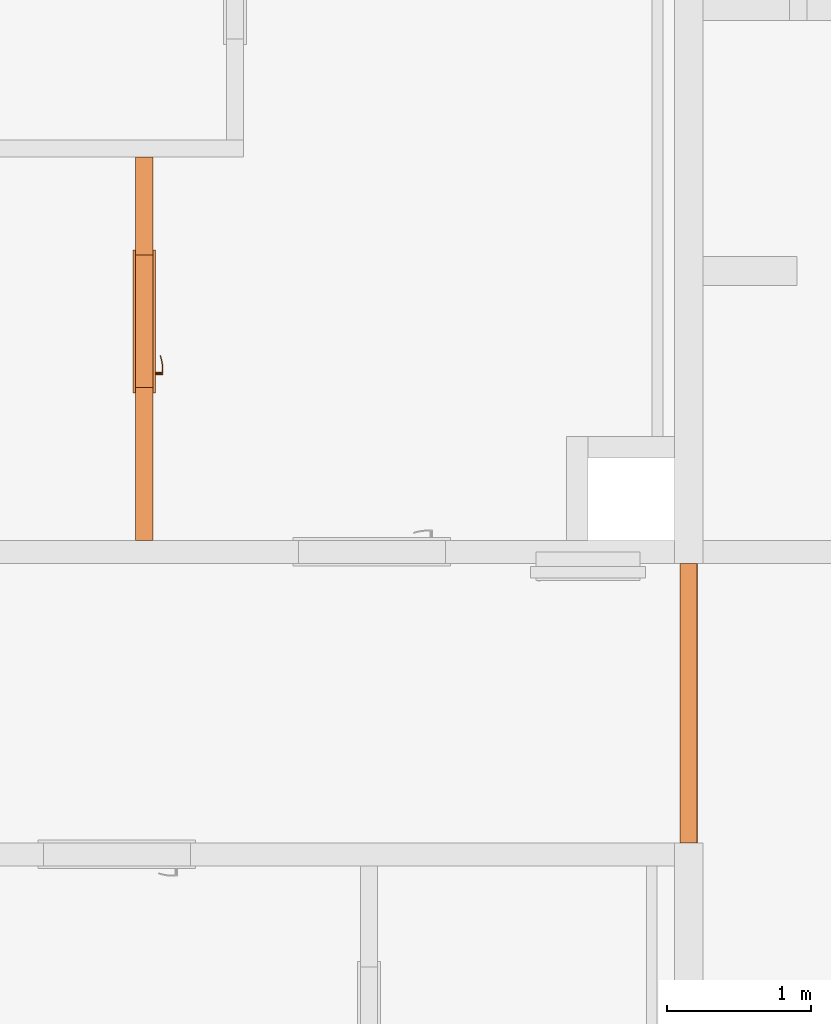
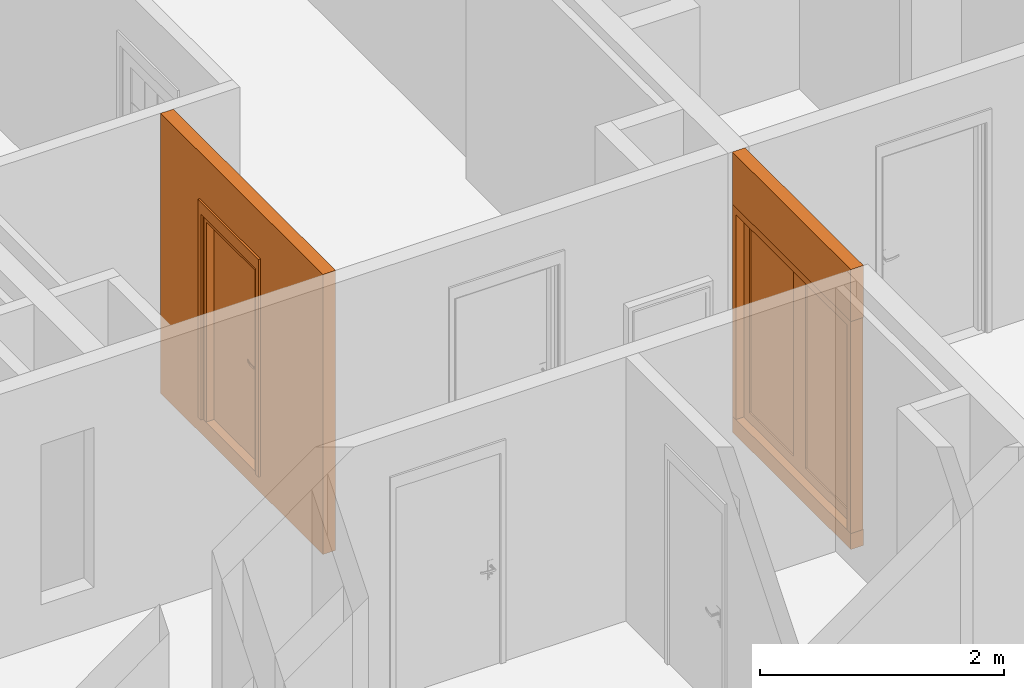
# One storey, part 25 of 67: 4 proxies, 2 openings.
"""IFC2X3 building model written with IfcOpenShell, lengths in millimetres."""

from ifc_helpers import new_model, entity, si_unit, converted_unit, derived_unit, money_unit, direction, frame, origin_with_axes, origin_2d_with_axis, place, context, subcontext, project, spatial, rectangle, extrude, open_shell, faceted_brep, surface_model, source, transform, mapped, material, type_object, element, fill, save


model = new_model("IFC2X3")

# Units and contexts
model_context = context("Model", 3, precision=0.01, world=origin_with_axes(), true_north=direction((0.34421633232, 0.938890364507)))
body_context = subcontext(model_context, "Body", "Model", "MODEL_VIEW")
ifc_project = project(units=[si_unit("LENGTHUNIT", "METRE", prefix="MILLI"), si_unit("AREAUNIT", "SQUARE_METRE"), si_unit("VOLUMEUNIT", "CUBIC_METRE"), converted_unit("PLANEANGLEUNIT", "DEGREE", entity("IfcPlaneAngleMeasure", 0.0174532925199), si_unit("PLANEANGLEUNIT", "RADIAN"), dimensions=[0, 0, 0, 0, 0, 0, 0]), si_unit("SOLIDANGLEUNIT", "STERADIAN"), money_unit("USD"), converted_unit("TIMEUNIT", "Year", entity("IfcTimeMeasure", 31556926.0), si_unit("TIMEUNIT", "SECOND"), dimensions=[0, 0, 1, 0, 0, 0, 0]), si_unit("MASSUNIT", "GRAM", prefix="KILO"), si_unit("THERMODYNAMICTEMPERATUREUNIT", "DEGREE_CELSIUS"), si_unit("LUMINOUSINTENSITYUNIT", "LUMEN"), si_unit("ENERGYUNIT", "JOULE", prefix="MEGA"), derived_unit("THERMALCONDUCTANCEUNIT", [(si_unit("POWERUNIT", "WATT"), 1), (si_unit("LENGTHUNIT", "METRE"), -1), (si_unit("THERMODYNAMICTEMPERATUREUNIT", "KELVIN"), -1)]), derived_unit("SPECIFICHEATCAPACITYUNIT", [(si_unit("ENERGYUNIT", "JOULE"), 1), (si_unit("MASSUNIT", "GRAM", prefix="KILO"), -1), (si_unit("THERMODYNAMICTEMPERATUREUNIT", "KELVIN"), -1)]), derived_unit("MASSDENSITYUNIT", [(si_unit("MASSUNIT", "GRAM", prefix="KILO"), 1), (si_unit("VOLUMEUNIT", "CUBIC_METRE"), -1)])], contexts=[model_context])

# Site, building, storey
site_placement = place(None, origin_with_axes())
site = spatial("IfcSite", under=ifc_project, at=site_placement, Name="USTRONIE MORSKIE", CompositionType="ELEMENT")
building_placement = place(site_placement, origin_with_axes())
building = spatial("IfcBuilding", under=site, at=building_placement, Name="Budynek", CompositionType="ELEMENT")
storey_placement = place(building_placement, frame((0.0, 0.0, 4000.0), z_axis=(0.0, 0.0, 1.0), x_axis=(1.0, 0.0, 0.0)))
storey = spatial("IfcBuildingStorey", under=building, at=storey_placement, Name="PIĘTRO 1", CompositionType="ELEMENT", Elevation=4000.0)

# Proxies, opening
ifc_material = material(Name="Bloczki silikatowe")
building_element_proxy_type_1 = type_object("IfcBuildingElementProxyType", Name="Bloczki silikatowe 120", PredefinedType="NOTDEFINED")
proxy_1_placement = place(storey_placement, frame((379317.920919, 734751.199036, -160.0), z_axis=(0.0, 0.0, 1.0), x_axis=(0.0, 1.0, 0.0)))
proxy_1 = element("IfcBuildingElementProxy", 1, at=proxy_1_placement, inside=storey, type_object=building_element_proxy_type_1, material=ifc_material, Name="SW-04", context=body_context, shape_type="Brep", body=[
    faceted_brep([(80.0038033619, -60.0, 0.0), (2020.0, -60.0, 0.0), (2020.0, -60.0, 2800.0), (80.0038033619, -60.0, 2800.0), (80.0037661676, 60.0, 0.0), (2020.0, 60.0, 0.0), (2020.0, 60.0, 2800.0), (80.0037661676, 60.0, 2800.0)], [[[0, 1, 2, 3]], [[4, 5, 1, 0]], [[5, 6, 2, 1]], [[3, 2, 6, 7]], [[4, 0, 3, 7]], [[7, 6, 5, 4]]]),
])
opening_1_placement = place(proxy_1_placement, frame((1050.00188308, 0.0, 160.0), z_axis=(0.0, 0.0, 1.0), x_axis=(1.0, 0.0, 0.0)))
opening_1 = element("IfcOpeningElement", 2, at=opening_1_placement, cuts=proxy_1, Name="Dw.6s", context=body_context, shape_type="SweptSolid", body=[
    extrude(rectangle(XDim=1940.0, YDim=2120.0, at=origin_2d_with_axis()), frame((0.0, -120.0, 1060.0), z_axis=(0.0, -1.0, 0.0), x_axis=(1.0, 0.0, 0.0)), (0.0, 0.0, -1.0), 360.0),
])
building_element_proxy_type_2 = type_object("IfcBuildingElementProxyType", Name="Drzwi podwójne 23", PredefinedType="NOTDEFINED")
shared_shape_1 = source(origin_with_axes(), body_context, "Body", "SurfaceModel", [
    faceted_brep([(910.0, -40.0, 0.0), (910.0, -115.0, 0.0), (910.0, -115.0, 2050.0), (910.0, -40.0, 2050.0), (922.0, -40.0, 0.0), (922.0, 0.0, 0.0), (970.0, 0.0, 0.0), (970.0, -115.0, 0.0), (970.0, -115.0, 2050.0), (922.0, -40.0, 2050.0), (970.0, 0.0, 2050.0), (922.0, 0.0, 2050.0)], [[[0, 1, 2, 3]], [[4, 5, 6, 7, 1, 0]], [[1, 7, 8, 2]], [[9, 3, 2, 8, 10, 11]], [[9, 4, 0, 3]], [[11, 5, 4, 9]], [[11, 10, 6, 5]], [[6, 10, 8, 7]]]),
    faceted_brep([(-922.0, -40.0, 2050.0), (-922.0, 0.0, 2050.0), (-970.0, 0.0, 2050.0), (-970.0, -115.0, 2050.0), (-910.0, -115.0, 2050.0), (-910.0, -40.0, 2050.0), (-922.0, -40.0, 0.0), (-922.0, 0.0, 0.0), (-970.0, 0.0, 0.0), (-970.0, -115.0, 0.0), (-910.0, -115.0, 0.0), (-910.0, -40.0, 0.0)], [[[0, 1, 2, 3, 4, 5]], [[0, 6, 7, 1]], [[7, 8, 2, 1]], [[2, 8, 9, 3]], [[3, 9, 10, 4]], [[5, 4, 10, 11]], [[5, 11, 6, 0]], [[6, 11, 10, 9, 8, 7]]]),
    faceted_brep([(922.0, 0.0, 2062.0), (-922.0, 0.0, 2062.0), (-922.0, 0.0, 2050.0), (-970.0, 0.0, 2050.0), (-970.0, 0.0, 2120.0), (970.0, 0.0, 2120.0), (970.0, 0.0, 2050.0), (922.0, 0.0, 2050.0), (922.0, -40.0, 2062.0), (-922.0, -40.0, 2062.0), (-922.0, -40.0, 2050.0), (-910.0, -40.0, 2050.0), (-910.0, -115.0, 2050.0), (-970.0, -115.0, 2050.0), (-970.0, -115.0, 2120.0), (970.0, -115.0, 2120.0), (970.0, -115.0, 2050.0), (922.0, -40.0, 2050.0), (910.0, -115.0, 2050.0), (910.0, -40.0, 2050.0)], [[[0, 1, 2, 3, 4, 5, 6, 7]], [[0, 8, 9, 1]], [[1, 9, 10, 2]], [[10, 11, 12, 13, 3, 2]], [[4, 3, 13, 14]], [[5, 4, 14, 15]], [[6, 5, 15, 16]], [[17, 7, 6, 16, 18, 19]], [[7, 17, 8, 0]], [[10, 9, 8, 17, 19, 11]], [[19, 18, 12, 11]], [[12, 18, 16, 15, 14, 13]]]),
    faceted_brep([(-922.0, 0.0, 100.0), (-822.0, 0.0, 100.0), (-822.0, -40.0, 100.0), (-922.0, -40.0, 100.0), (-922.0, 0.0, 1962.0), (-822.0, 0.0, 1962.0), (-822.0, -40.0, 1962.0), (-922.0, -40.0, 1962.0)], [[[0, 1, 2, 3]], [[0, 4, 5, 1]], [[1, 5, 6, 2]], [[3, 2, 6, 7]], [[4, 0, 3, 7]], [[5, 4, 7, 6]]]),
    faceted_brep([(0.0, 0.0, 100.0), (0.0, 0.0, 1962.0), (0.0, -40.0, 1962.0), (0.0, -40.0, 100.0), (-100.0, 0.0, 100.0), (-100.0, 0.0, 1962.0), (-100.0, -40.0, 1962.0), (-100.0, -40.0, 100.0)], [[[0, 1, 2, 3]], [[0, 4, 5, 1]], [[1, 5, 6, 2]], [[3, 2, 6, 7]], [[4, 0, 3, 7]], [[5, 4, 7, 6]]]),
    faceted_brep([(-922.0, 0.0, 0.0), (0.0, 0.0, 0.0), (0.0, -40.0, 0.0), (-922.0, -40.0, 0.0), (-922.0, 0.0, 100.0), (-822.0, 0.0, 100.0), (-100.0, 0.0, 100.0), (0.0, 0.0, 100.0), (0.0, -40.0, 100.0), (-100.0, -40.0, 100.0), (-822.0, -40.0, 100.0), (-922.0, -40.0, 100.0)], [[[0, 1, 2, 3]], [[0, 4, 5, 6, 7, 1]], [[1, 7, 8, 2]], [[3, 2, 8, 9, 10, 11]], [[4, 0, 3, 11]], [[5, 4, 11, 10]], [[6, 5, 10, 9]], [[7, 6, 9, 8]]]),
    faceted_brep([(-922.0, 0.0, 2062.0), (-922.0, 0.0, 1962.0), (-922.0, -40.0, 1962.0), (-922.0, -40.0, 2062.0), (0.0, 0.0, 2062.0), (0.0, 0.0, 1962.0), (-100.0, 0.0, 1962.0), (-822.0, 0.0, 1962.0), (-822.0, -40.0, 1962.0), (-100.0, -40.0, 1962.0), (0.0, -40.0, 1962.0), (0.0, -40.0, 2062.0)], [[[0, 1, 2, 3]], [[0, 4, 5, 6, 7, 1]], [[1, 7, 8, 2]], [[3, 2, 8, 9, 10, 11]], [[4, 0, 3, 11]], [[5, 4, 11, 10]], [[6, 5, 10, 9]], [[7, 6, 9, 8]]]),
    surface_model("IfcShellBasedSurfaceModel", [(-822.0, -14.0, 100.0), (-822.0, -14.0, 1962.0), (-100.0, -14.0, 1962.0), (-100.0, -14.0, 100.0)], [open_shell([[[0, 1, 2, 3]]])]),
    surface_model("IfcShellBasedSurfaceModel", [(-822.0, -26.0, 100.0), (-100.0, -26.0, 100.0), (-100.0, -26.0, 1962.0), (-822.0, -26.0, 1962.0)], [open_shell([[[0, 1, 2, 3]]])]),
    faceted_brep([(922.0, 0.0, 100.0), (922.0, -40.0, 100.0), (822.0, -40.0, 100.0), (822.0, 0.0, 100.0), (922.0, 0.0, 1962.0), (922.0, -40.0, 1962.0), (822.0, -40.0, 1962.0), (822.0, 0.0, 1962.0)], [[[0, 1, 2, 3]], [[4, 5, 1, 0]], [[1, 5, 6, 2]], [[3, 2, 6, 7]], [[0, 3, 7, 4]], [[7, 6, 5, 4]]]),
    faceted_brep([(0.0, 0.0, 100.0), (0.0, -40.0, 100.0), (0.0, -40.0, 1962.0), (0.0, 0.0, 1962.0), (100.0, 0.0, 100.0), (100.0, -40.0, 100.0), (100.0, -40.0, 1962.0), (100.0, 0.0, 1962.0)], [[[0, 1, 2, 3]], [[4, 5, 1, 0]], [[1, 5, 6, 2]], [[3, 2, 6, 7]], [[0, 3, 7, 4]], [[7, 6, 5, 4]]]),
    faceted_brep([(922.0, 0.0, 0.0), (922.0, -40.0, 0.0), (0.0, -40.0, 0.0), (0.0, 0.0, 0.0), (922.0, 0.0, 100.0), (922.0, -40.0, 100.0), (822.0, -40.0, 100.0), (100.0, -40.0, 100.0), (0.0, -40.0, 100.0), (0.0, 0.0, 100.0), (100.0, 0.0, 100.0), (822.0, 0.0, 100.0)], [[[0, 1, 2, 3]], [[4, 5, 1, 0]], [[1, 5, 6, 7, 8, 2]], [[3, 2, 8, 9]], [[0, 3, 9, 10, 11, 4]], [[11, 6, 5, 4]], [[10, 7, 6, 11]], [[9, 8, 7, 10]]]),
    faceted_brep([(922.0, 0.0, 2062.0), (922.0, -40.0, 2062.0), (922.0, -40.0, 1962.0), (922.0, 0.0, 1962.0), (0.0, 0.0, 2062.0), (0.0, -40.0, 2062.0), (0.0, -40.0, 1962.0), (100.0, -40.0, 1962.0), (822.0, -40.0, 1962.0), (822.0, 0.0, 1962.0), (100.0, 0.0, 1962.0), (0.0, 0.0, 1962.0)], [[[0, 1, 2, 3]], [[4, 5, 1, 0]], [[1, 5, 6, 7, 8, 2]], [[3, 2, 8, 9]], [[0, 3, 9, 10, 11, 4]], [[11, 6, 5, 4]], [[10, 7, 6, 11]], [[9, 8, 7, 10]]]),
    surface_model("IfcShellBasedSurfaceModel", [(822.0, -14.0, 100.0), (100.0, -14.0, 100.0), (100.0, -14.0, 1962.0), (822.0, -14.0, 1962.0)], [open_shell([[[0, 1, 2, 3]]])]),
    surface_model("IfcShellBasedSurfaceModel", [(822.0, -26.0, 100.0), (822.0, -26.0, 1962.0), (100.0, -26.0, 1962.0), (100.0, -26.0, 100.0)], [open_shell([[[0, 1, 2, 3]]])]),
])
proxy_2_placement = place(opening_1_placement, frame((910.0, 0.0, 0.0), z_axis=(0.0, 0.0, 1.0), x_axis=(-1.0, 0.0, 0.0)))
proxy_2 = element("IfcBuildingElementProxy", 3, at=proxy_2_placement, inside=storey, type_object=building_element_proxy_type_2, Name="Dw.6s", context=body_context, shape_type="MappedRepresentation", body=[
    mapped(shared_shape_1, transform((910.0, 55.0, 0.0))),
])
fill(opening_1, proxy_2)

proxy_3_placement = place(storey_placement, frame((375537.920919, 739651.199937, -160.0), z_axis=(0.0, 0.0, 1.0), x_axis=(0.0, -1.0, 0.0)))
proxy_3 = element("IfcBuildingElementProxy", 4, at=proxy_3_placement, inside=storey, type_object=building_element_proxy_type_1, material=ifc_material, Name="SW-04", context=body_context, shape_type="Brep", body=[
    faceted_brep([(2720.00090117, 60.0, 0.0), (2720.00090117, -60.0, 0.0), (59.9999999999, -60.0, 0.0), (59.9999999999, 60.0, 0.0), (2720.00090117, 60.0, 2800.0), (2720.00090117, -60.0, 2800.0), (59.9999999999, -60.0, 2800.0), (59.9999999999, 60.0, 2800.0)], [[[0, 1, 2, 3]], [[1, 0, 4, 5]], [[1, 5, 6, 2]], [[7, 3, 2, 6]], [[4, 0, 3, 7]], [[5, 4, 7, 6]]]),
])
opening_2_placement = place(proxy_3_placement, frame((1200.00090117, 0.0, 160.0), z_axis=(0.0, 0.0, 1.0), x_axis=(1.0, 0.0, 0.0)))
opening_2 = element("IfcOpeningElement", 5, at=opening_2_placement, cuts=proxy_3, Name="Dw.4", context=body_context, shape_type="SweptSolid", body=[
    extrude(rectangle(XDim=920.0, YDim=2070.0, at=origin_2d_with_axis()), frame((0.0, -120.0, 1035.0), z_axis=(0.0, -1.0, 0.0), x_axis=(-1.0, 0.0, 0.0)), (0.0, 0.0, -1.0), 360.0),
    extrude(rectangle(XDim=994.0, YDim=2177.0, at=origin_2d_with_axis()), frame((0.0, -60.0, 1088.5), z_axis=(0.0, -1.0, 0.0), x_axis=(-1.0, 0.0, 0.0)), (0.0, 0.0, 1.0), 120.0),
    extrude(rectangle(XDim=994.0, YDim=2177.0, at=origin_2d_with_axis()), frame((0.0, 60.0, 1088.5), z_axis=(0.0, 1.0, 0.0), x_axis=(-1.0, 0.0, 0.0)), (0.0, 0.0, 1.0), 120.0),
])
building_element_proxy_type_3 = type_object("IfcBuildingElementProxyType", Name="Drzwi 23", PredefinedType="NOTDEFINED")
shared_shape_2 = source(origin_with_axes(), body_context, "Body", "SurfaceModel", [
    faceted_brep([(460.0, -115.0, 0.0), (460.0, -120.0, 0.0), (435.0, -120.0, 0.0), (435.0, -115.0, 0.0), (460.0, -115.0, 2070.0), (460.0, -120.0, 2070.0), (435.0, -120.0, 2045.0), (435.0, -115.0, 2045.0)], [[[0, 1, 2, 3]], [[4, 5, 1, 0]], [[1, 5, 6, 2]], [[3, 2, 6, 7]], [[0, 3, 7, 4]], [[7, 6, 5, 4]]]),
    faceted_brep([(-460.0, -115.0, 2070.0), (-460.0, -120.0, 2070.0), (-435.0, -120.0, 2045.0), (-435.0, -115.0, 2045.0), (-460.0, -115.0, 0.0), (-460.0, -120.0, 0.0), (-435.0, -120.0, 0.0), (-435.0, -115.0, 0.0)], [[[0, 1, 2, 3]], [[4, 5, 1, 0]], [[1, 5, 6, 2]], [[3, 2, 6, 7]], [[0, 3, 7, 4]], [[7, 6, 5, 4]]]),
    faceted_brep([(435.0, -115.0, 2045.0), (435.0, -120.0, 2045.0), (-435.0, -120.0, 2045.0), (-435.0, -115.0, 2045.0), (460.0, -115.0, 2070.0), (460.0, -120.0, 2070.0), (-460.0, -120.0, 2070.0), (-460.0, -115.0, 2070.0)], [[[0, 1, 2, 3]], [[4, 5, 1, 0]], [[1, 5, 6, 2]], [[3, 2, 6, 7]], [[0, 3, 7, 4]], [[7, 6, 5, 4]]]),
    faceted_brep([(497.0, -139.0, 0.0), (447.0, -139.0, 0.0), (447.0, -120.0, 0.0), (497.0, -120.0, 0.0), (497.0, -139.0, 2177.0), (447.0, -139.0, 2057.0), (447.0, -120.0, 2057.0), (497.0, -120.0, 2177.0)], [[[0, 1, 2, 3]], [[0, 4, 5, 1]], [[1, 5, 6, 2]], [[3, 2, 6, 7]], [[4, 0, 3, 7]], [[5, 4, 7, 6]]]),
    faceted_brep([(-497.0, -139.0, 2177.0), (-447.0, -139.0, 2057.0), (-447.0, -120.0, 2057.0), (-497.0, -120.0, 2177.0), (-497.0, -139.0, 0.0), (-447.0, -139.0, 0.0), (-447.0, -120.0, 0.0), (-497.0, -120.0, 0.0)], [[[0, 1, 2, 3]], [[0, 4, 5, 1]], [[1, 5, 6, 2]], [[3, 2, 6, 7]], [[4, 0, 3, 7]], [[5, 4, 7, 6]]]),
    faceted_brep([(497.0, -139.0, 2177.0), (447.0, -139.0, 2057.0), (447.0, -120.0, 2057.0), (497.0, -120.0, 2177.0), (-497.0, -139.0, 2177.0), (-447.0, -139.0, 2057.0), (-447.0, -120.0, 2057.0), (-497.0, -120.0, 2177.0)], [[[0, 1, 2, 3]], [[0, 4, 5, 1]], [[1, 5, 6, 2]], [[3, 2, 6, 7]], [[4, 0, 3, 7]], [[5, 4, 7, 6]]]),
    faceted_brep([(497.0, 19.0, 0.0), (497.0, 0.0, 0.0), (447.0, 0.0, 0.0), (447.0, 19.0, 0.0), (497.0, 19.0, 2177.0), (497.0, 0.0, 2177.0), (447.0, 0.0, 2057.0), (447.0, 19.0, 2057.0)], [[[0, 1, 2, 3]], [[4, 5, 1, 0]], [[1, 5, 6, 2]], [[3, 2, 6, 7]], [[0, 3, 7, 4]], [[7, 6, 5, 4]]]),
    faceted_brep([(-497.0, 19.0, 2177.0), (-497.0, 0.0, 2177.0), (-447.0, 0.0, 2057.0), (-447.0, 19.0, 2057.0), (-497.0, 19.0, 0.0), (-497.0, 0.0, 0.0), (-447.0, 0.0, 0.0), (-447.0, 19.0, 0.0)], [[[0, 1, 2, 3]], [[4, 5, 1, 0]], [[1, 5, 6, 2]], [[3, 2, 6, 7]], [[0, 3, 7, 4]], [[7, 6, 5, 4]]]),
    faceted_brep([(497.0, 19.0, 2177.0), (497.0, 0.0, 2177.0), (447.0, 0.0, 2057.0), (447.0, 19.0, 2057.0), (-497.0, 19.0, 2177.0), (-497.0, 0.0, 2177.0), (-447.0, 0.0, 2057.0), (-447.0, 19.0, 2057.0)], [[[0, 1, 2, 3]], [[4, 5, 1, 0]], [[1, 5, 6, 2]], [[3, 2, 6, 7]], [[0, 3, 7, 4]], [[7, 6, 5, 4]]]),
    faceted_brep([(400.0, -40.0, 0.0), (400.0, -115.0, 0.0), (400.0, -115.0, 2000.0), (400.0, -40.0, 2000.0), (412.0, -40.0, 0.0), (412.0, 0.0, 0.0), (460.0, 0.0, 0.0), (460.0, -115.0, 0.0), (460.0, -115.0, 2000.0), (412.0, -40.0, 2000.0), (460.0, 0.0, 2000.0), (412.0, 0.0, 2000.0)], [[[0, 1, 2, 3]], [[4, 5, 6, 7, 1, 0]], [[1, 7, 8, 2]], [[9, 3, 2, 8, 10, 11]], [[9, 4, 0, 3]], [[11, 5, 4, 9]], [[11, 10, 6, 5]], [[6, 10, 8, 7]]]),
    faceted_brep([(-412.0, -40.0, 2000.0), (-412.0, 0.0, 2000.0), (-460.0, 0.0, 2000.0), (-460.0, -115.0, 2000.0), (-400.0, -115.0, 2000.0), (-400.0, -40.0, 2000.0), (-412.0, -40.0, 0.0), (-412.0, 0.0, 0.0), (-460.0, 0.0, 0.0), (-460.0, -115.0, 0.0), (-400.0, -115.0, 0.0), (-400.0, -40.0, 0.0)], [[[0, 1, 2, 3, 4, 5]], [[0, 6, 7, 1]], [[7, 8, 2, 1]], [[2, 8, 9, 3]], [[3, 9, 10, 4]], [[5, 4, 10, 11]], [[5, 11, 6, 0]], [[6, 11, 10, 9, 8, 7]]]),
    faceted_brep([(412.0, 0.0, 2012.0), (-412.0, 0.0, 2012.0), (-412.0, 0.0, 2000.0), (-460.0, 0.0, 2000.0), (-460.0, 0.0, 2070.0), (460.0, 0.0, 2070.0), (460.0, 0.0, 2000.0), (412.0, 0.0, 2000.0), (412.0, -40.0, 2012.0), (-412.0, -40.0, 2012.0), (-412.0, -40.0, 2000.0), (-400.0, -40.0, 2000.0), (-400.0, -115.0, 2000.0), (-460.0, -115.0, 2000.0), (-460.0, -115.0, 2070.0), (460.0, -115.0, 2070.0), (460.0, -115.0, 2000.0), (412.0, -40.0, 2000.0), (400.0, -115.0, 2000.0), (400.0, -40.0, 2000.0)], [[[0, 1, 2, 3, 4, 5, 6, 7]], [[0, 8, 9, 1]], [[1, 9, 10, 2]], [[10, 11, 12, 13, 3, 2]], [[4, 3, 13, 14]], [[5, 4, 14, 15]], [[6, 5, 15, 16]], [[17, 7, 6, 16, 18, 19]], [[7, 17, 8, 0]], [[10, 9, 8, 17, 19, 11]], [[19, 18, 12, 11]], [[12, 18, 16, 15, 14, 13]]]),
    faceted_brep([(390.5, -40.0, 1060.0), (333.5, -40.0, 1060.0), (333.5, -43.0, 1060.0), (390.5, -43.0, 1060.0), (390.5, -40.0, 870.0), (333.5, -40.0, 870.0), (333.5, -43.0, 870.0), (390.5, -43.0, 870.0)], [[[0, 1, 2, 3]], [[0, 4, 5, 1]], [[1, 5, 6, 2]], [[3, 2, 6, 7]], [[4, 0, 3, 7]], [[5, 4, 7, 6]]]),
    faceted_brep([(362.0, -104.0, 990.0), (367.0, -104.0, 991.339745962), (367.0, -111.0, 991.339745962), (362.0, -111.0, 990.0), (337.0, -104.0, 990.0), (337.0, -104.0, 1010.0), (362.0, -104.0, 1010.0), (367.0, -104.0, 1008.66025404), (370.660254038, -104.0, 1005.0), (372.0, -104.0, 1000.0), (370.660254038, -104.0, 995.0), (370.660254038, -111.0, 995.0), (372.0, -111.0, 1000.0), (370.660254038, -111.0, 1005.0), (367.0, -111.0, 1008.66025404), (362.0, -111.0, 1010.0), (337.0, -111.0, 1010.0), (337.0, -111.0, 990.0)], [[[0, 1, 2, 3]], [[0, 4, 5, 6, 7, 8, 9, 10, 1]], [[1, 10, 11, 2]], [[3, 2, 11, 12, 13, 14, 15, 16, 17]], [[4, 0, 3, 17]], [[5, 4, 17, 16]], [[6, 5, 16, 15]], [[7, 6, 15, 14]], [[8, 7, 14, 13]], [[9, 8, 13, 12]], [[10, 9, 12, 11]]]),
    surface_model("IfcShellBasedSurfaceModel", [(337.0, -104.0, 1010.0), (323.901717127, -104.0, 1009.60730092), (323.596090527, -111.0, 1009.60730092), (337.0, -104.0, 990.0), (323.901717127, -104.0, 990.392699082), (296.890283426, -108.663544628, 1008.82190275), (337.0, -111.0, 1010.0), (337.0, -111.0, 990.0), (297.804837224, -101.716818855, 991.178097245), (297.804837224, -101.716818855, 1008.82190275), (296.890283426, -108.663544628, 991.178097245), (323.596090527, -111.0, 990.392699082), (272.006256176, -97.1678329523, 991.963495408), (272.006256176, -97.1678329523, 1008.03650459), (270.489735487, -104.008415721, 1008.03650459), (270.489735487, -104.008415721, 991.963495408), (246.702316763, -90.3876628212, 992.748893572), (246.702316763, -90.3876628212, 1007.25110643), (244.59537082, -97.0700416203, 1007.25110643), (244.59537082, -97.0700416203, 992.748893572), (238.829442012, -87.5221707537, 993.0), (238.829442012, -87.5221707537, 1007.0), (236.538795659, -94.1376880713, 1007.0), (236.538795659, -94.1376880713, 993.0)], [open_shell([[[0, 1, 2]], [[0, 3, 4, 1]], [[1, 5, 2]], [[0, 2, 6]], [[4, 3, 7]], [[1, 4, 8, 9]], [[1, 9, 5]], [[2, 5, 10, 11]], [[6, 2, 11, 7]], [[4, 7, 11]], [[8, 4, 11]], [[9, 8, 12, 13]], [[9, 14, 5]], [[5, 14, 15, 10]], [[8, 11, 10]], [[12, 8, 10]], [[13, 12, 16, 17]], [[9, 13, 14]], [[14, 18, 19, 15]], [[12, 10, 15]], [[16, 12, 15]], [[17, 16, 20, 21]], [[13, 17, 18]], [[13, 18, 14]], [[18, 22, 23, 19]], [[16, 15, 19]], [[20, 16, 19]], [[21, 20, 23, 22]], [[17, 21, 22]], [[17, 22, 18]], [[20, 19, 23]]])]),
    faceted_brep([(351.607695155, -53.0, 994.0), (350.0, -53.0, 1000.0), (349.0, -43.0, 1000.0), (350.741669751, -43.0, 993.5), (356.0, -53.0, 989.607695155), (362.0, -53.0, 988.0), (368.0, -53.0, 989.607695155), (372.392304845, -53.0, 994.0), (374.0, -53.0, 1000.0), (372.392304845, -53.0, 1006.0), (368.0, -53.0, 1010.39230485), (362.0, -53.0, 1012.0), (356.0, -53.0, 1010.39230485), (351.607695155, -53.0, 1006.0), (350.741669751, -43.0, 1006.5), (355.5, -43.0, 1011.25833025), (362.0, -43.0, 1013.0), (368.5, -43.0, 1011.25833025), (373.258330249, -43.0, 1006.5), (375.0, -43.0, 1000.0), (373.258330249, -43.0, 993.5), (368.5, -43.0, 988.741669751), (362.0, -43.0, 987.0), (355.5, -43.0, 988.741669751)], [[[0, 1, 2, 3]], [[1, 0, 4, 5, 6, 7, 8, 9, 10, 11, 12, 13]], [[1, 13, 14, 2]], [[2, 14, 15, 16, 17, 18, 19, 20, 21, 22, 23, 3]], [[4, 0, 3, 23]], [[5, 4, 23, 22]], [[6, 5, 22, 21]], [[7, 6, 21, 20]], [[8, 7, 20, 19]], [[9, 8, 19, 18]], [[10, 9, 18, 17]], [[11, 10, 17, 16]], [[12, 11, 16, 15]], [[13, 12, 15, 14]]]),
    faceted_brep([(344.679491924, -47.0, 895.0), (342.0, -47.0, 905.0), (340.0, -43.0, 905.0), (342.947441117, -43.0, 894.0), (352.0, -47.0, 887.679491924), (362.0, -47.0, 885.0), (372.0, -47.0, 887.679491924), (379.320508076, -47.0, 895.0), (382.0, -47.0, 905.0), (379.320508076, -47.0, 915.0), (372.0, -47.0, 922.320508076), (362.0, -47.0, 925.0), (352.0, -47.0, 922.320508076), (344.679491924, -47.0, 915.0), (342.947441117, -43.0, 916.0), (351.0, -43.0, 924.052558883), (362.0, -43.0, 927.0), (373.0, -43.0, 924.052558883), (381.052558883, -43.0, 916.0), (384.0, -43.0, 905.0), (381.052558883, -43.0, 894.0), (373.0, -43.0, 885.947441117), (362.0, -43.0, 883.0), (351.0, -43.0, 885.947441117)], [[[0, 1, 2, 3]], [[1, 0, 4, 5, 6, 7, 8, 9, 10, 11, 12, 13]], [[1, 13, 14, 2]], [[2, 14, 15, 16, 17, 18, 19, 20, 21, 22, 23, 3]], [[4, 0, 3, 23]], [[5, 4, 23, 22]], [[6, 5, 22, 21]], [[7, 6, 21, 20]], [[8, 7, 20, 19]], [[9, 8, 19, 18]], [[10, 9, 18, 17]], [[11, 10, 17, 16]], [[12, 11, 16, 15]], [[13, 12, 15, 14]]]),
    faceted_brep([(357.050252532, -49.0, 909.050252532), (355.0, -49.0, 914.0), (354.0, -47.0, 914.0), (356.343145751, -47.0, 908.343145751), (362.0, -49.0, 907.0), (366.949747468, -49.0, 909.050252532), (369.0, -49.0, 914.0), (366.949747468, -49.0, 918.949747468), (362.0, -49.0, 921.0), (357.050252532, -49.0, 918.949747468), (356.343145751, -47.0, 919.656854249), (362.0, -47.0, 922.0), (367.656854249, -47.0, 919.656854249), (370.0, -47.0, 914.0), (367.656854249, -47.0, 908.343145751), (362.0, -47.0, 906.0)], [[[0, 1, 2, 3]], [[1, 0, 4, 5, 6, 7, 8, 9]], [[1, 9, 10, 2]], [[2, 10, 11, 12, 13, 14, 15, 3]], [[4, 0, 3, 15]], [[5, 4, 15, 14]], [[6, 5, 14, 13]], [[7, 6, 13, 12]], [[8, 7, 12, 11]], [[9, 8, 11, 10]]]),
    faceted_brep([(362.0, -53.0, 1010.0), (357.0, -53.0, 1008.66025404), (357.0, -104.0, 1008.66025404), (362.0, -104.0, 1010.0), (367.0, -53.0, 1008.66025404), (370.660254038, -53.0, 1005.0), (372.0, -53.0, 1000.0), (370.660254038, -53.0, 995.0), (367.0, -53.0, 991.339745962), (362.0, -53.0, 990.0), (357.0, -53.0, 991.339745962), (353.339745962, -53.0, 995.0), (352.0, -53.0, 1000.0), (353.339745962, -53.0, 1005.0), (353.339745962, -104.0, 1005.0), (352.0, -104.0, 1000.0), (353.339745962, -104.0, 995.0), (357.0, -104.0, 991.339745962), (362.0, -104.0, 990.0), (367.0, -104.0, 991.339745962), (370.660254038, -104.0, 995.0), (372.0, -104.0, 1000.0), (370.660254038, -104.0, 1005.0), (367.0, -104.0, 1008.66025404)], [[[0, 1, 2, 3]], [[0, 4, 5, 6, 7, 8, 9, 10, 11, 12, 13, 1]], [[1, 13, 14, 2]], [[3, 2, 14, 15, 16, 17, 18, 19, 20, 21, 22, 23]], [[4, 0, 3, 23]], [[5, 4, 23, 22]], [[6, 5, 22, 21]], [[7, 6, 21, 20]], [[8, 7, 20, 19]], [[9, 8, 19, 18]], [[10, 9, 18, 17]], [[11, 10, 17, 16]], [[12, 11, 16, 15]], [[13, 12, 15, 14]]]),
    faceted_brep([(390.5, 0.0, 1060.0), (390.5, 3.0, 1060.0), (333.5, 3.0, 1060.0), (333.5, 0.0, 1060.0), (390.5, 0.0, 870.0), (390.5, 3.0, 870.0), (333.5, 3.0, 870.0), (333.5, 0.0, 870.0)], [[[0, 1, 2, 3]], [[4, 5, 1, 0]], [[1, 5, 6, 2]], [[3, 2, 6, 7]], [[0, 3, 7, 4]], [[7, 6, 5, 4]]]),
    faceted_brep([(362.0, 64.0, 990.0), (362.0, 71.0, 990.0), (367.0, 71.0, 991.339745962), (367.0, 64.0, 991.339745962), (337.0, 64.0, 990.0), (337.0, 71.0, 990.0), (337.0, 71.0, 1010.0), (362.0, 71.0, 1010.0), (367.0, 71.0, 1008.66025404), (370.660254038, 71.0, 1005.0), (372.0, 71.0, 1000.0), (370.660254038, 71.0, 995.0), (370.660254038, 64.0, 995.0), (372.0, 64.0, 1000.0), (370.660254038, 64.0, 1005.0), (367.0, 64.0, 1008.66025404), (362.0, 64.0, 1010.0), (337.0, 64.0, 1010.0)], [[[0, 1, 2, 3]], [[4, 5, 1, 0]], [[1, 5, 6, 7, 8, 9, 10, 11, 2]], [[3, 2, 11, 12]], [[0, 3, 12, 13, 14, 15, 16, 17, 4]], [[17, 6, 5, 4]], [[16, 7, 6, 17]], [[15, 8, 7, 16]], [[14, 9, 8, 15]], [[13, 10, 9, 14]], [[12, 11, 10, 13]]]),
    surface_model("IfcShellBasedSurfaceModel", [(337.0, 64.0, 1010.0), (323.596090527, 71.0, 1009.60730092), (323.901717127, 64.0, 1009.60730092), (337.0, 71.0, 1010.0), (296.890283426, 68.6635446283, 1008.82190275), (323.901717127, 64.0, 990.392699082), (337.0, 64.0, 990.0), (337.0, 71.0, 990.0), (323.596090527, 71.0, 990.392699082), (296.890283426, 68.6635446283, 991.178097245), (297.804837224, 61.716818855, 1008.82190275), (297.804837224, 61.716818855, 991.178097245), (270.489735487, 64.0084157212, 991.963495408), (270.489735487, 64.0084157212, 1008.03650459), (272.006256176, 57.1678329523, 1008.03650459), (272.006256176, 57.1678329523, 991.963495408), (244.59537082, 57.0700416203, 992.748893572), (244.59537082, 57.0700416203, 1007.25110643), (246.702316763, 50.3876628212, 1007.25110643), (246.702316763, 50.3876628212, 992.748893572), (236.538795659, 54.1376880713, 993.0), (236.538795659, 54.1376880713, 1007.0), (238.829442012, 47.5221707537, 1007.0), (238.829442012, 47.5221707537, 993.0)], [open_shell([[[0, 1, 2]], [[0, 3, 1]], [[2, 1, 4]], [[0, 2, 5, 6]], [[3, 7, 8, 1]], [[1, 8, 9, 4]], [[2, 4, 10]], [[2, 10, 11, 5]], [[5, 7, 6]], [[5, 8, 7]], [[11, 9, 8]], [[4, 9, 12, 13]], [[10, 4, 13]], [[10, 14, 15, 11]], [[11, 8, 5]], [[15, 9, 11]], [[15, 12, 9]], [[13, 12, 16, 17]], [[10, 13, 14]], [[14, 18, 19, 15]], [[19, 12, 15]], [[19, 16, 12]], [[17, 16, 20, 21]], [[14, 13, 17]], [[14, 17, 18]], [[18, 22, 23, 19]], [[23, 16, 19]], [[23, 20, 16]], [[22, 21, 20, 23]], [[18, 17, 21]], [[18, 21, 22]]])]),
    faceted_brep([(351.607695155, 13.0, 994.0), (350.741669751, 3.0, 993.5), (349.0, 3.0, 1000.0), (350.0, 13.0, 1000.0), (356.0, 13.0, 989.607695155), (355.5, 3.0, 988.741669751), (362.0, 3.0, 987.0), (368.5, 3.0, 988.741669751), (373.258330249, 3.0, 993.5), (375.0, 3.0, 1000.0), (373.258330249, 3.0, 1006.5), (368.5, 3.0, 1011.25833025), (362.0, 3.0, 1013.0), (355.5, 3.0, 1011.25833025), (350.741669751, 3.0, 1006.5), (351.607695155, 13.0, 1006.0), (356.0, 13.0, 1010.39230485), (362.0, 13.0, 1012.0), (368.0, 13.0, 1010.39230485), (372.392304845, 13.0, 1006.0), (374.0, 13.0, 1000.0), (372.392304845, 13.0, 994.0), (368.0, 13.0, 989.607695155), (362.0, 13.0, 988.0)], [[[0, 1, 2, 3]], [[4, 5, 1, 0]], [[2, 1, 5, 6, 7, 8, 9, 10, 11, 12, 13, 14]], [[3, 2, 14, 15]], [[3, 15, 16, 17, 18, 19, 20, 21, 22, 23, 4, 0]], [[23, 6, 5, 4]], [[22, 7, 6, 23]], [[21, 8, 7, 22]], [[20, 9, 8, 21]], [[19, 10, 9, 20]], [[18, 11, 10, 19]], [[17, 12, 11, 18]], [[16, 13, 12, 17]], [[15, 14, 13, 16]]]),
    faceted_brep([(344.679491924, 7.0, 895.0), (342.947441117, 3.0, 894.0), (340.0, 3.0, 905.0), (342.0, 7.0, 905.0), (352.0, 7.0, 887.679491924), (351.0, 3.0, 885.947441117), (362.0, 3.0, 883.0), (373.0, 3.0, 885.947441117), (381.052558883, 3.0, 894.0), (384.0, 3.0, 905.0), (381.052558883, 3.0, 916.0), (373.0, 3.0, 924.052558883), (362.0, 3.0, 927.0), (351.0, 3.0, 924.052558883), (342.947441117, 3.0, 916.0), (344.679491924, 7.0, 915.0), (352.0, 7.0, 922.320508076), (362.0, 7.0, 925.0), (372.0, 7.0, 922.320508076), (379.320508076, 7.0, 915.0), (382.0, 7.0, 905.0), (379.320508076, 7.0, 895.0), (372.0, 7.0, 887.679491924), (362.0, 7.0, 885.0)], [[[0, 1, 2, 3]], [[4, 5, 1, 0]], [[2, 1, 5, 6, 7, 8, 9, 10, 11, 12, 13, 14]], [[3, 2, 14, 15]], [[3, 15, 16, 17, 18, 19, 20, 21, 22, 23, 4, 0]], [[23, 6, 5, 4]], [[22, 7, 6, 23]], [[21, 8, 7, 22]], [[20, 9, 8, 21]], [[19, 10, 9, 20]], [[18, 11, 10, 19]], [[17, 12, 11, 18]], [[16, 13, 12, 17]], [[15, 14, 13, 16]]]),
    faceted_brep([(357.050252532, 9.0, 909.050252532), (356.343145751, 7.0, 908.343145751), (354.0, 7.0, 914.0), (355.0, 9.0, 914.0), (362.0, 9.0, 907.0), (362.0, 7.0, 906.0), (367.656854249, 7.0, 908.343145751), (370.0, 7.0, 914.0), (367.656854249, 7.0, 919.656854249), (362.0, 7.0, 922.0), (356.343145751, 7.0, 919.656854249), (357.050252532, 9.0, 918.949747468), (362.0, 9.0, 921.0), (366.949747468, 9.0, 918.949747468), (369.0, 9.0, 914.0), (366.949747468, 9.0, 909.050252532)], [[[0, 1, 2, 3]], [[4, 5, 1, 0]], [[2, 1, 5, 6, 7, 8, 9, 10]], [[3, 2, 10, 11]], [[3, 11, 12, 13, 14, 15, 4, 0]], [[15, 6, 5, 4]], [[14, 7, 6, 15]], [[13, 8, 7, 14]], [[12, 9, 8, 13]], [[11, 10, 9, 12]]]),
    faceted_brep([(362.0, 13.0, 1010.0), (362.0, 64.0, 1010.0), (357.0, 64.0, 1008.66025404), (357.0, 13.0, 1008.66025404), (367.0, 13.0, 1008.66025404), (367.0, 64.0, 1008.66025404), (370.660254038, 64.0, 1005.0), (372.0, 64.0, 1000.0), (370.660254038, 64.0, 995.0), (367.0, 64.0, 991.339745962), (362.0, 64.0, 990.0), (357.0, 64.0, 991.339745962), (353.339745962, 64.0, 995.0), (352.0, 64.0, 1000.0), (353.339745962, 64.0, 1005.0), (353.339745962, 13.0, 1005.0), (352.0, 13.0, 1000.0), (353.339745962, 13.0, 995.0), (357.0, 13.0, 991.339745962), (362.0, 13.0, 990.0), (367.0, 13.0, 991.339745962), (370.660254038, 13.0, 995.0), (372.0, 13.0, 1000.0), (370.660254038, 13.0, 1005.0)], [[[0, 1, 2, 3]], [[4, 5, 1, 0]], [[1, 5, 6, 7, 8, 9, 10, 11, 12, 13, 14, 2]], [[3, 2, 14, 15]], [[0, 3, 15, 16, 17, 18, 19, 20, 21, 22, 23, 4]], [[23, 6, 5, 4]], [[22, 7, 6, 23]], [[21, 8, 7, 22]], [[20, 9, 8, 21]], [[19, 10, 9, 20]], [[18, 11, 10, 19]], [[17, 12, 11, 18]], [[16, 13, 12, 17]], [[15, 14, 13, 16]]]),
    faceted_brep([(-412.0, 0.0, 0.0), (412.0, 0.0, 0.0), (412.0, -40.0, 0.0), (-412.0, -40.0, 0.0), (-412.0, 0.0, 2012.0), (412.0, 0.0, 2012.0), (412.0, -40.0, 2012.0), (-412.0, -40.0, 2012.0)], [[[0, 1, 2, 3]], [[0, 4, 5, 1]], [[1, 5, 6, 2]], [[3, 2, 6, 7]], [[4, 0, 3, 7]], [[5, 4, 7, 6]]]),
])
proxy_4_placement = place(opening_2_placement, frame((-400.0, 0.0, 0.0), z_axis=(0.0, 0.0, 1.0), x_axis=(1.0, 0.0, 0.0)))
proxy_4 = element("IfcBuildingElementProxy", 6, at=proxy_4_placement, inside=storey, type_object=building_element_proxy_type_3, Name="Dw.4", context=body_context, shape_type="MappedRepresentation", body=[
    mapped(shared_shape_2, transform((400.0, 60.0, 0.0))),
])
fill(opening_2, proxy_4)

save(model, "model.ifc")
